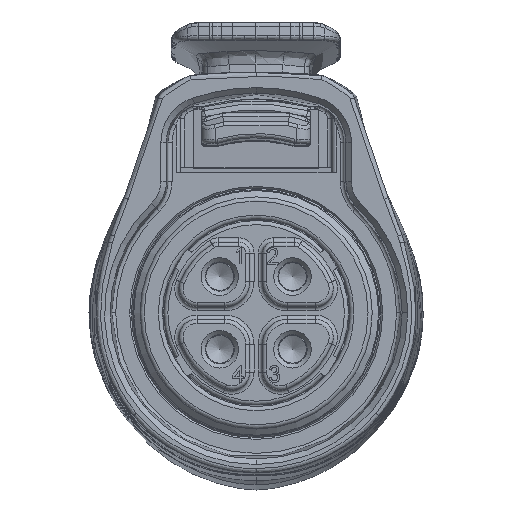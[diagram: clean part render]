
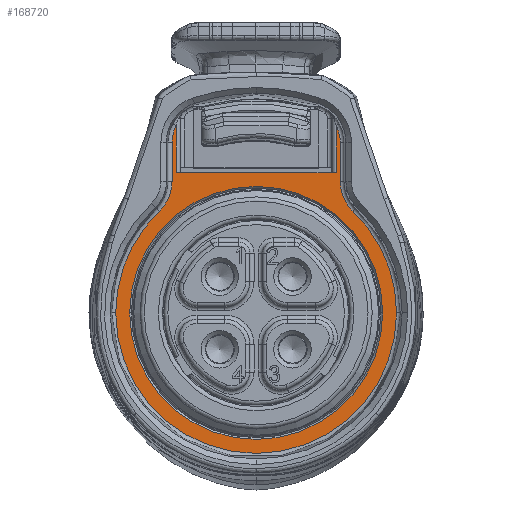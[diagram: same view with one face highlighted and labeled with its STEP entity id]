
A CAD part, left-side view. The second image highlights one B-rep face of the part: STEP entity #168720.
In plain terms, the highlighted planar face has unit normal (-1, 0, 0).
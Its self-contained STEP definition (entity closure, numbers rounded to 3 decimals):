
#420 = ORIENTED_EDGE ( 'NONE', *, *, #322604, .T. ) ;
#980 = CARTESIAN_POINT ( 'NONE',  ( 5.569, 0., 20.683 ) ) ;
#6687 = VECTOR ( 'NONE', #240266, 1000. ) ;
#8923 = EDGE_CURVE ( 'NONE', #188367, #46575, #202074, .T. ) ;
#13168 = DIRECTION ( 'NONE',  ( 0., 0., 1. ) ) ;
#13394 = CARTESIAN_POINT ( 'NONE',  ( 5.569, 6.053, 32.959 ) ) ;
#16450 = FACE_BOUND ( 'NONE', #255984, .T. ) ;
#18850 = CARTESIAN_POINT ( 'NONE',  ( 5.569, 9., 30.133 ) ) ;
#20919 = CARTESIAN_POINT ( 'NONE',  ( 5.569, -10.103, 20.683 ) ) ;
#20920 = EDGE_CURVE ( 'NONE', #294991, #118535, #257172, .T. ) ;
#23545 = CARTESIAN_POINT ( 'NONE',  ( 5.569, 5.752, 30.784 ) ) ;
#24162 = ORIENTED_EDGE ( 'NONE', *, *, #8923, .T. ) ;
#24914 = VERTEX_POINT ( 'NONE', #146415 ) ;
#33043 = ORIENTED_EDGE ( 'NONE', *, *, #321805, .T. ) ;
#35230 = AXIS2_PLACEMENT_3D ( 'NONE', #203338, #303880, #280764 ) ;
#40148 = AXIS2_PLACEMENT_3D ( 'NONE', #51641, #175299, #227996 ) ;
#46575 = VERTEX_POINT ( 'NONE', #77111 ) ;
#48428 = DIRECTION ( 'NONE',  ( 1., 0., 0. ) ) ;
#51641 = CARTESIAN_POINT ( 'NONE',  ( 5.569, -9., 30.133 ) ) ;
#65092 = CARTESIAN_POINT ( 'NONE',  ( 5.569, 9.1, 20.683 ) ) ;
#65127 = CARTESIAN_POINT ( 'NONE',  ( 5.569, 6.053, 30.133 ) ) ;
#68594 = DIRECTION ( 'NONE',  ( 1., 0., 0. ) ) ;
#69999 = ORIENTED_EDGE ( 'NONE', *, *, #203557, .T. ) ;
#71836 = CARTESIAN_POINT ( 'NONE',  ( 5.569, 0., 20.683 ) ) ;
#72370 = CARTESIAN_POINT ( 'NONE',  ( 5.569, 3.5, 30.784 ) ) ;
#74334 = CARTESIAN_POINT ( 'NONE',  ( 5.569, -5.752, 34.16 ) ) ;
#76244 = CIRCLE ( 'NONE', #223555, 10.103 ) ;
#77111 = CARTESIAN_POINT ( 'NONE',  ( 5.569, -6.053, 32.959 ) ) ;
#77469 = EDGE_CURVE ( 'NONE', #276208, #96283, #127855, .T. ) ;
#77780 = ORIENTED_EDGE ( 'NONE', *, *, #264934, .T. ) ;
#81902 = VECTOR ( 'NONE', #271865, 1000. ) ;
#86323 = AXIS2_PLACEMENT_3D ( 'NONE', #18850, #48428, #170510 ) ;
#90255 = CARTESIAN_POINT ( 'NONE',  ( 5.569, -5.752, 32.859 ) ) ;
#96283 = VERTEX_POINT ( 'NONE', #20919 ) ;
#96847 = ORIENTED_EDGE ( 'NONE', *, *, #99994, .T. ) ;
#99994 = EDGE_CURVE ( 'NONE', #205372, #188367, #171698, .T. ) ;
#101547 = DIRECTION ( 'NONE',  ( -1., 0., 0. ) ) ;
#106837 = ORIENTED_EDGE ( 'NONE', *, *, #291641, .T. ) ;
#108870 = EDGE_CURVE ( 'NONE', #46575, #157564, #314071, .T. ) ;
#115395 = DIRECTION ( 'NONE',  ( 0., 0., 1. ) ) ;
#118535 = VERTEX_POINT ( 'NONE', #303638 ) ;
#119059 = AXIS2_PLACEMENT_3D ( 'NONE', #281762, #153212, #253747 ) ;
#123287 = DIRECTION ( 'NONE',  ( -1., 0., 0. ) ) ;
#123788 = ORIENTED_EDGE ( 'NONE', *, *, #77469, .T. ) ;
#125267 = AXIS2_PLACEMENT_3D ( 'NONE', #71836, #68594, #317524 ) ;
#127855 = CIRCLE ( 'NONE', #170013, 10.103 ) ;
#128577 = CARTESIAN_POINT ( 'NONE',  ( 5.569, -6.967, 27.999 ) ) ;
#129246 = ORIENTED_EDGE ( 'NONE', *, *, #154286, .T. ) ;
#129484 = DIRECTION ( 'NONE',  ( 0., 0., 1. ) ) ;
#129692 = ORIENTED_EDGE ( 'NONE', *, *, #20920, .T. ) ;
#130200 = CARTESIAN_POINT ( 'NONE',  ( 5.569, 10.103, 20.683 ) ) ;
#138458 = LINE ( 'NONE', #239001, #174931 ) ;
#146415 = CARTESIAN_POINT ( 'NONE',  ( 5.569, 5.752, 34.16 ) ) ;
#146591 = AXIS2_PLACEMENT_3D ( 'NONE', #297181, #147142, #272454 ) ;
#147142 = DIRECTION ( 'NONE',  ( 1., 0., 0. ) ) ;
#153212 = DIRECTION ( 'NONE',  ( -1., 0., 0. ) ) ;
#154286 = EDGE_CURVE ( 'NONE', #273262, #24914, #138458, .T. ) ;
#157422 = VERTEX_POINT ( 'NONE', #318935 ) ;
#157564 = VERTEX_POINT ( 'NONE', #74334 ) ;
#163153 = DIRECTION ( 'NONE',  ( -1., 0., 0. ) ) ;
#165697 = LINE ( 'NONE', #65127, #275173 ) ;
#166212 = EDGE_CURVE ( 'NONE', #292719, #256784, #217842, .T. ) ;
#168720 = ADVANCED_FACE ( 'NONE', ( #16450, #217552 ), #171346, .T. ) ;
#170013 = AXIS2_PLACEMENT_3D ( 'NONE', #212606, #163153, #187868 ) ;
#170510 = DIRECTION ( 'NONE',  ( 0., -1., 0. ) ) ;
#171346 = PLANE ( 'NONE',  #244205 ) ;
#171698 = CIRCLE ( 'NONE', #40148, 2.947 ) ;
#174931 = VECTOR ( 'NONE', #13168, 1000. ) ;
#175299 = DIRECTION ( 'NONE',  ( 1., 0., 0. ) ) ;
#187868 = DIRECTION ( 'NONE',  ( 0., -1., 0. ) ) ;
#188367 = VERTEX_POINT ( 'NONE', #205571 ) ;
#200895 = LINE ( 'NONE', #72370, #81902 ) ;
#201505 = VERTEX_POINT ( 'NONE', #13394 ) ;
#202074 = LINE ( 'NONE', #254758, #207759 ) ;
#202390 = EDGE_CURVE ( 'NONE', #96283, #205372, #325286, .T. ) ;
#203338 = CARTESIAN_POINT ( 'NONE',  ( 5.569, -3.5, 32.959 ) ) ;
#203557 = EDGE_CURVE ( 'NONE', #118535, #294991, #319912, .T. ) ;
#205341 = DIRECTION ( 'NONE',  ( 0., -1., 0. ) ) ;
#205372 = VERTEX_POINT ( 'NONE', #128577 ) ;
#205571 = CARTESIAN_POINT ( 'NONE',  ( 5.569, -6.053, 30.133 ) ) ;
#207759 = VECTOR ( 'NONE', #129484, 1000. ) ;
#212606 = CARTESIAN_POINT ( 'NONE',  ( 5.569, 0., 20.683 ) ) ;
#216516 = CARTESIAN_POINT ( 'NONE',  ( 5.569, 6.967, 27.999 ) ) ;
#217552 = FACE_OUTER_BOUND ( 'NONE', #235833, .T. ) ;
#217842 = CIRCLE ( 'NONE', #86323, 2.947 ) ;
#223555 = AXIS2_PLACEMENT_3D ( 'NONE', #980, #101547, #205341 ) ;
#227996 = DIRECTION ( 'NONE',  ( 0., -1., 0. ) ) ;
#235833 = EDGE_LOOP ( 'NONE', ( #106837, #129246, #77780, #420, #289095, #298184, #123788, #299457, #96847, #24162, #312145, #33043 ) ) ;
#239001 = CARTESIAN_POINT ( 'NONE',  ( 5.569, 5.752, 32.859 ) ) ;
#240266 = DIRECTION ( 'NONE',  ( 0., 0., -1. ) ) ;
#240660 = DIRECTION ( 'NONE',  ( -1., 0., 0. ) ) ;
#244205 = AXIS2_PLACEMENT_3D ( 'NONE', #318114, #240660, #115395 ) ;
#253747 = DIRECTION ( 'NONE',  ( 0., -1., 0. ) ) ;
#254758 = CARTESIAN_POINT ( 'NONE',  ( 5.569, -6.053, 32.959 ) ) ;
#255189 = CARTESIAN_POINT ( 'NONE',  ( 5.569, 6.053, 30.133 ) ) ;
#255984 = EDGE_LOOP ( 'NONE', ( #69999, #129692 ) ) ;
#256784 = VERTEX_POINT ( 'NONE', #216516 ) ;
#257172 = CIRCLE ( 'NONE', #146591, 9.1 ) ;
#264934 = EDGE_CURVE ( 'NONE', #24914, #201505, #287541, .T. ) ;
#271715 = DIRECTION ( 'NONE',  ( 0., -1., 0. ) ) ;
#271865 = DIRECTION ( 'NONE',  ( 0., 1., 0. ) ) ;
#272454 = DIRECTION ( 'NONE',  ( 0., -1., 0. ) ) ;
#273262 = VERTEX_POINT ( 'NONE', #23545 ) ;
#275173 = VECTOR ( 'NONE', #290969, 1000. ) ;
#276208 = VERTEX_POINT ( 'NONE', #130200 ) ;
#280764 = DIRECTION ( 'NONE',  ( 0., -1., 0. ) ) ;
#281762 = CARTESIAN_POINT ( 'NONE',  ( 5.569, 3.5, 32.959 ) ) ;
#282979 = EDGE_CURVE ( 'NONE', #256784, #276208, #76244, .T. ) ;
#287541 = CIRCLE ( 'NONE', #119059, 2.553 ) ;
#289095 = ORIENTED_EDGE ( 'NONE', *, *, #166212, .T. ) ;
#290969 = DIRECTION ( 'NONE',  ( 0., 0., -1. ) ) ;
#291641 = EDGE_CURVE ( 'NONE', #157422, #273262, #200895, .T. ) ;
#292719 = VERTEX_POINT ( 'NONE', #255189 ) ;
#294991 = VERTEX_POINT ( 'NONE', #65092 ) ;
#296437 = CARTESIAN_POINT ( 'NONE',  ( 5.569, 0., 20.683 ) ) ;
#297181 = CARTESIAN_POINT ( 'NONE',  ( 5.569, 0., 20.683 ) ) ;
#298184 = ORIENTED_EDGE ( 'NONE', *, *, #282979, .T. ) ;
#298946 = AXIS2_PLACEMENT_3D ( 'NONE', #296437, #123287, #271715 ) ;
#299457 = ORIENTED_EDGE ( 'NONE', *, *, #202390, .T. ) ;
#303638 = CARTESIAN_POINT ( 'NONE',  ( 5.569, -9.1, 20.683 ) ) ;
#303880 = DIRECTION ( 'NONE',  ( -1., 0., 0. ) ) ;
#312145 = ORIENTED_EDGE ( 'NONE', *, *, #108870, .T. ) ;
#314071 = CIRCLE ( 'NONE', #35230, 2.553 ) ;
#314479 = LINE ( 'NONE', #90255, #6687 ) ;
#317524 = DIRECTION ( 'NONE',  ( 0., -1., 0. ) ) ;
#318114 = CARTESIAN_POINT ( 'NONE',  ( 5.569, 3.5, 32.859 ) ) ;
#318935 = CARTESIAN_POINT ( 'NONE',  ( 5.569, -5.752, 30.784 ) ) ;
#319912 = CIRCLE ( 'NONE', #125267, 9.1 ) ;
#321805 = EDGE_CURVE ( 'NONE', #157564, #157422, #314479, .T. ) ;
#322604 = EDGE_CURVE ( 'NONE', #201505, #292719, #165697, .T. ) ;
#325286 = CIRCLE ( 'NONE', #298946, 10.103 ) ;
